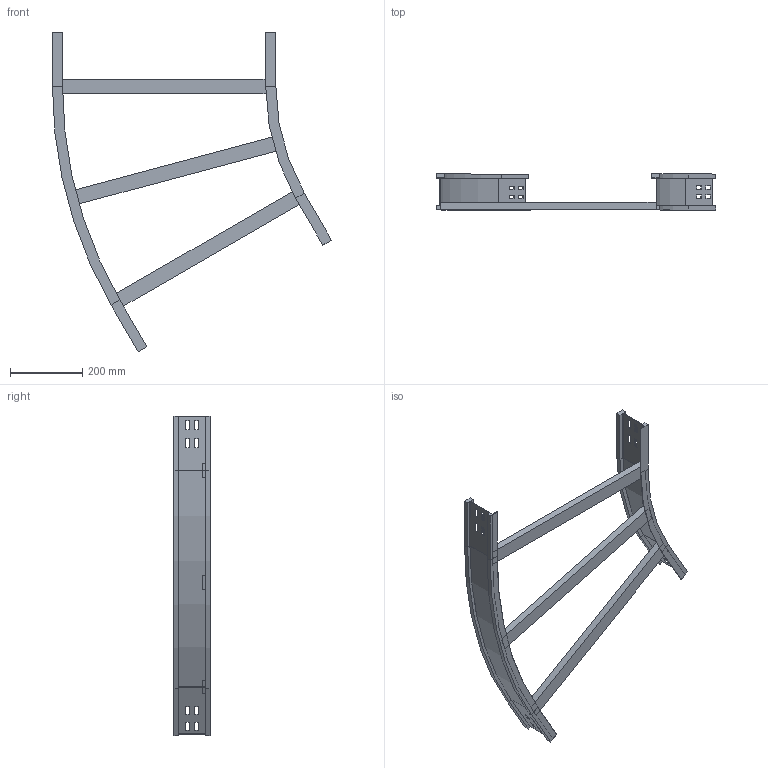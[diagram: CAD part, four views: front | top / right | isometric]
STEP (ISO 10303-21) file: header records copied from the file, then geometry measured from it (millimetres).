
FILE_DESCRIPTION (( 'STEP AP214' ), '1' );
FILE_NAME ('12S6D600.step', '2025-02-21T16:01:33', ( '' ), ( '' ), 'SwSTEP 2.0', 'SolidWorks 2023', '' );
FILE_SCHEMA (( 'AUTOMOTIVE_DESIGN' ));
Length unit declared in the file: millimetre
Products named in the file (4): 12S6D600; LONGH.ESTERNO 30°_H100_R600+600; TRAVERSINO_600; LONGH.INTERNO30°_H100_R600
Assembly tree (5 placements, depth 2):
  12S6D600
    LONGH.INTERNO30°_H100_R600
    LONGH.ESTERNO 30°_H100_R600+600
    TRAVERSINO_600  x3
Bounding box: 772.18 x 100 x 884.4 mm (x, y, z)
Volume: 2263208.9 mm3; surface area: 676239.9 mm2
Topology: 5 solids, 5 shells, 158 faces, 396 edges, 248 vertices
Faces by surface type: plane 146, cylinder 12
Entity records: 4477 total; most frequent: CARTESIAN_POINT 758, ORIENTED_EDGE 744, DIRECTION 704, EDGE_CURVE 372, LINE 348, VECTOR 348, VERTEX_POINT 232, EDGE_LOOP 178
